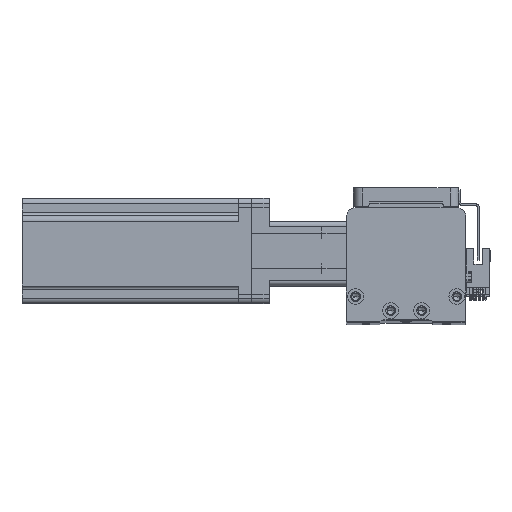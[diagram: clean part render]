
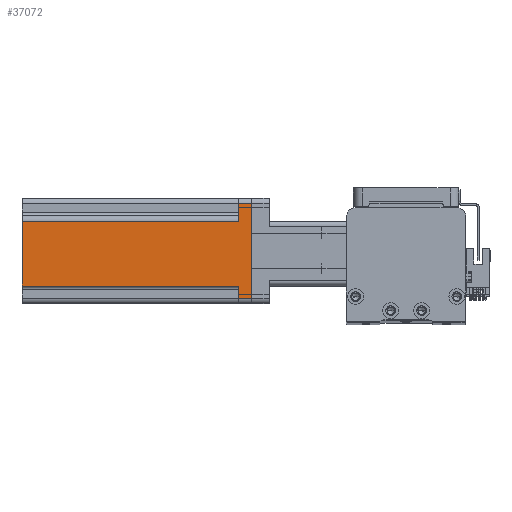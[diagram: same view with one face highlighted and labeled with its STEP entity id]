
A CAD part, top view. The second image highlights one B-rep face of the part: STEP entity #37072.
In plain terms, the highlighted planar face has unit normal (0, 0, 1) as drawn and (-1, 0, 0) by its records, which use the part's own axes.
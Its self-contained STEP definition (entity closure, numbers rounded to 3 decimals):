
#1779 = ORIENTED_EDGE ( 'NONE', *, *, #10776, .F. ) ;
#2006 = ORIENTED_EDGE ( 'NONE', *, *, #21311, .T. ) ;
#2033 = VERTEX_POINT ( 'NONE', #41474 ) ;
#2150 = PLANE ( 'NONE',  #41772 ) ;
#2181 = ORIENTED_EDGE ( 'NONE', *, *, #43533, .F. ) ;
#2253 = ORIENTED_EDGE ( 'NONE', *, *, #36956, .T. ) ;
#2691 = EDGE_CURVE ( 'NONE', #2033, #27794, #13442, .T. ) ;
#4422 = VECTOR ( 'NONE', #10814, 1000. ) ;
#4766 = DIRECTION ( 'NONE',  ( 0., 0., 1. ) ) ;
#5548 = FACE_OUTER_BOUND ( 'NONE', #37386, .T. ) ;
#5586 = VECTOR ( 'NONE', #20727, 1000. ) ;
#5676 = DIRECTION ( 'NONE',  ( 0., 0., -1. ) ) ;
#6162 = VERTEX_POINT ( 'NONE', #19833 ) ;
#6306 = VERTEX_POINT ( 'NONE', #7525 ) ;
#7525 = CARTESIAN_POINT ( 'NONE',  ( -30., -27., 7.5 ) ) ;
#8038 = VERTEX_POINT ( 'NONE', #11103 ) ;
#8357 = VECTOR ( 'NONE', #33237, 1000. ) ;
#9297 = EDGE_CURVE ( 'NONE', #8038, #27794, #15370, .T. ) ;
#9579 = VECTOR ( 'NONE', #4766, 1000. ) ;
#10776 = EDGE_CURVE ( 'NONE', #40424, #2033, #22611, .T. ) ;
#10814 = DIRECTION ( 'NONE',  ( 0., -1., 0. ) ) ;
#11103 = CARTESIAN_POINT ( 'NONE',  ( -30., -17., 7.5 ) ) ;
#11155 = CARTESIAN_POINT ( 'NONE',  ( -30., -17., 130.7 ) ) ;
#13132 = VECTOR ( 'NONE', #14496, 1000. ) ;
#13442 = LINE ( 'NONE', #16891, #14567 ) ;
#14496 = DIRECTION ( 'NONE',  ( 0., 0., 1. ) ) ;
#14567 = VECTOR ( 'NONE', #35111, 1000. ) ;
#15370 = LINE ( 'NONE', #11155, #23727 ) ;
#16405 = CARTESIAN_POINT ( 'NONE',  ( -30., -30., 130.7 ) ) ;
#16844 = CARTESIAN_POINT ( 'NONE',  ( -30., 20., 7.5 ) ) ;
#16891 = CARTESIAN_POINT ( 'NONE',  ( -30., -30., 130.7 ) ) ;
#17649 = CARTESIAN_POINT ( 'NONE',  ( -30., -30., 7.5 ) ) ;
#17800 = LINE ( 'NONE', #44829, #36717 ) ;
#18249 = EDGE_CURVE ( 'NONE', #40424, #6162, #24531, .T. ) ;
#19833 = CARTESIAN_POINT ( 'NONE',  ( -30., 27., 7.5 ) ) ;
#19965 = DIRECTION ( 'NONE',  ( 0., 0., -1. ) ) ;
#20727 = DIRECTION ( 'NONE',  ( 0., 1., 0. ) ) ;
#21311 = EDGE_CURVE ( 'NONE', #42505, #6306, #37914, .T. ) ;
#21712 = DIRECTION ( 'NONE',  ( 0., 0., 1. ) ) ;
#22250 = CARTESIAN_POINT ( 'NONE',  ( -30., -17., 130.7 ) ) ;
#22354 = CARTESIAN_POINT ( 'NONE',  ( -30., -30., 0. ) ) ;
#22611 = LINE ( 'NONE', #28640, #13132 ) ;
#23315 = EDGE_CURVE ( 'NONE', #6162, #42356, #17800, .T. ) ;
#23320 = LINE ( 'NONE', #17649, #4422 ) ;
#23727 = VECTOR ( 'NONE', #21712, 1000. ) ;
#24531 = LINE ( 'NONE', #31488, #5586 ) ;
#25689 = CARTESIAN_POINT ( 'NONE',  ( -30., -27., 0. ) ) ;
#26065 = CARTESIAN_POINT ( 'NONE',  ( -30., -27., 130.7 ) ) ;
#27006 = ORIENTED_EDGE ( 'NONE', *, *, #18249, .T. ) ;
#27794 = VERTEX_POINT ( 'NONE', #22250 ) ;
#28640 = CARTESIAN_POINT ( 'NONE',  ( -30., 20., 7.5 ) ) ;
#31488 = CARTESIAN_POINT ( 'NONE',  ( -30., 30., 7.5 ) ) ;
#33237 = DIRECTION ( 'NONE',  ( 0., -1., 0. ) ) ;
#35111 = DIRECTION ( 'NONE',  ( 0., -1., 0. ) ) ;
#35345 = CARTESIAN_POINT ( 'NONE',  ( -30., 27., 0. ) ) ;
#35624 = LINE ( 'NONE', #22354, #8357 ) ;
#36660 = ORIENTED_EDGE ( 'NONE', *, *, #2691, .F. ) ;
#36717 = VECTOR ( 'NONE', #5676, 1000. ) ;
#36956 = EDGE_CURVE ( 'NONE', #42356, #42505, #35624, .T. ) ;
#37072 = ADVANCED_FACE ( 'NONE', ( #5548 ), #2150, .F. ) ;
#37386 = EDGE_LOOP ( 'NONE', ( #2181, #43782, #36660, #1779, #27006, #45666, #2253, #2006 ) ) ;
#37914 = LINE ( 'NONE', #26065, #9579 ) ;
#40424 = VERTEX_POINT ( 'NONE', #16844 ) ;
#41280 = DIRECTION ( 'NONE',  ( 1., 0., 0. ) ) ;
#41474 = CARTESIAN_POINT ( 'NONE',  ( -30., 20., 130.7 ) ) ;
#41772 = AXIS2_PLACEMENT_3D ( 'NONE', #16405, #41280, #19965 ) ;
#42356 = VERTEX_POINT ( 'NONE', #35345 ) ;
#42505 = VERTEX_POINT ( 'NONE', #25689 ) ;
#43533 = EDGE_CURVE ( 'NONE', #8038, #6306, #23320, .T. ) ;
#43782 = ORIENTED_EDGE ( 'NONE', *, *, #9297, .T. ) ;
#44829 = CARTESIAN_POINT ( 'NONE',  ( -30., 27., 130.7 ) ) ;
#45666 = ORIENTED_EDGE ( 'NONE', *, *, #23315, .T. ) ;
